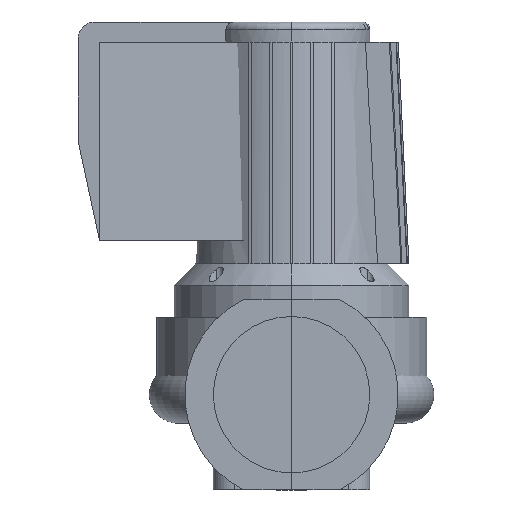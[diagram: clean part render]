
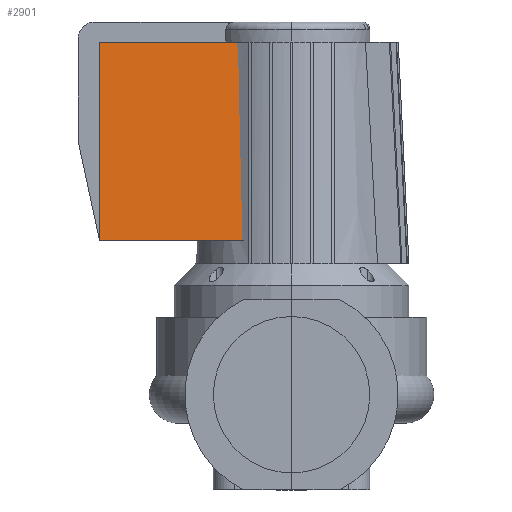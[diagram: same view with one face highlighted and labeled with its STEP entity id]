
A CAD part, left-side view. The second image highlights one B-rep face of the part: STEP entity #2901.
In plain terms, the highlighted planar face has unit normal (-0.997, 0, 0.071).
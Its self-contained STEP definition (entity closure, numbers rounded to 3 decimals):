
#255=PLANE('',#3158);
#414=FACE_OUTER_BOUND('',#600,.T.);
#600=EDGE_LOOP('',(#2455,#2456,#2457,#2458));
#755=LINE('',#6068,#965);
#763=LINE('',#6152,#973);
#772=LINE('',#6169,#982);
#773=LINE('',#6170,#983);
#965=VECTOR('',#3680,304.8);
#973=VECTOR('',#3696,304.8);
#982=VECTOR('',#3709,304.8);
#983=VECTOR('',#3710,304.8);
#1355=VERTEX_POINT('',#6066);
#1356=VERTEX_POINT('',#6067);
#1366=VERTEX_POINT('',#6150);
#1372=VERTEX_POINT('',#6168);
#1727=EDGE_CURVE('',#1355,#1356,#755,.T.);
#1740=EDGE_CURVE('',#1356,#1366,#763,.T.);
#1749=EDGE_CURVE('',#1372,#1366,#772,.T.);
#1750=EDGE_CURVE('',#1355,#1372,#773,.T.);
#2455=ORIENTED_EDGE('',*,*,#1749,.F.);
#2456=ORIENTED_EDGE('',*,*,#1750,.F.);
#2457=ORIENTED_EDGE('',*,*,#1727,.T.);
#2458=ORIENTED_EDGE('',*,*,#1740,.T.);
#2901=ADVANCED_FACE('',(#414),#255,.T.);
#3158=AXIS2_PLACEMENT_3D('',#6167,#3707,#3708);
#3680=DIRECTION('',(0.071,0.,0.997));
#3696=DIRECTION('',(0.,1.,0.));
#3707=DIRECTION('center_axis',(-0.997,0.,0.071));
#3708=DIRECTION('ref_axis',(0.,1.,0.));
#3709=DIRECTION('',(0.071,0.,0.997));
#3710=DIRECTION('',(0.,1.,0.));
#6066=CARTESIAN_POINT('',(26312.75,-35951.239,108.204));
#6067=CARTESIAN_POINT('',(26322.75,-35951.239,247.916));
#6068=CARTESIAN_POINT('',(26312.75,-35951.239,108.204));
#6150=CARTESIAN_POINT('',(26322.75,-35846.239,247.916));
#6152=CARTESIAN_POINT('',(26322.75,-35951.239,247.916));
#6167=CARTESIAN_POINT('Origin',(26322.75,-35981.239,247.916));
#6168=CARTESIAN_POINT('',(26312.75,-35846.239,108.204));
#6169=CARTESIAN_POINT('',(26312.75,-35846.239,108.204));
#6170=CARTESIAN_POINT('',(26312.75,-35951.239,108.204));
